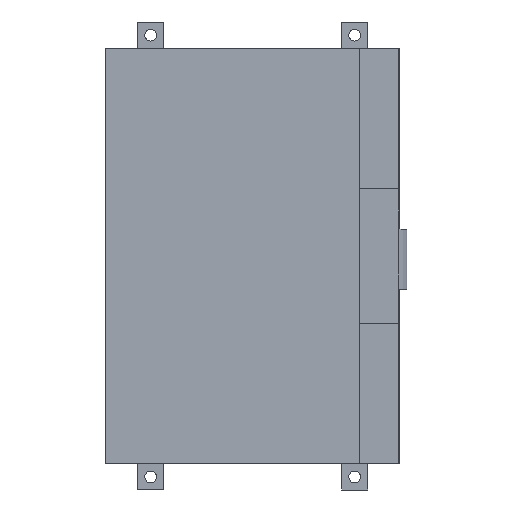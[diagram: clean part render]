
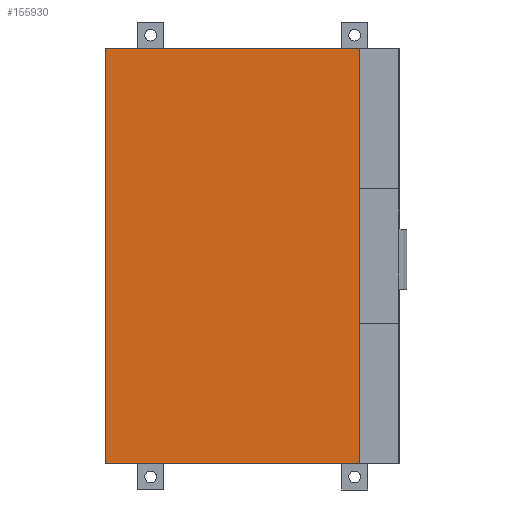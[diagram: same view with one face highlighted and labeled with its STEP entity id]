
A CAD part, left-side view. The second image highlights one B-rep face of the part: STEP entity #155930.
In plain terms, the highlighted planar face has unit normal (-1, 0, 0) as drawn and (0, 1, 0) by its records, which use the part's own axes.
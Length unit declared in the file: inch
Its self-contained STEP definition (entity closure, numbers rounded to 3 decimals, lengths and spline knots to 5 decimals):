
#2210 = ORIENTED_EDGE ( 'NONE', *, *, #3474, .T. ) ;
#3474 = EDGE_CURVE ( 'NONE', #174096, #57783, #72416, .T. ) ;
#8680 = CARTESIAN_POINT ( 'NONE',  ( -2.18504, 0.06299, -1.13386 ) ) ;
#20070 = CARTESIAN_POINT ( 'NONE',  ( 0., 0.06299, 0. ) ) ;
#23572 = VECTOR ( 'NONE', #72243, 39.37008 ) ;
#28630 = LINE ( 'NONE', #168694, #23572 ) ;
#39419 = VECTOR ( 'NONE', #64365, 39.37008 ) ;
#51798 = DIRECTION ( 'NONE',  ( 0., 0., 1. ) ) ;
#57783 = VERTEX_POINT ( 'NONE', #126163 ) ;
#64365 = DIRECTION ( 'NONE',  ( 0., 0., -1. ) ) ;
#72243 = DIRECTION ( 'NONE',  ( -1., 0., 0. ) ) ;
#72416 = LINE ( 'NONE', #169775, #208272 ) ;
#86216 = EDGE_CURVE ( 'NONE', #57783, #103075, #136109, .T. ) ;
#98933 = AXIS2_PLACEMENT_3D ( 'NONE', #20070, #101843, #51798 ) ;
#101843 = DIRECTION ( 'NONE',  ( 0., 1., 0. ) ) ;
#103075 = VERTEX_POINT ( 'NONE', #123382 ) ;
#106237 = FACE_OUTER_BOUND ( 'NONE', #175805, .T. ) ;
#119144 = ORIENTED_EDGE ( 'NONE', *, *, #147534, .T. ) ;
#123382 = CARTESIAN_POINT ( 'NONE',  ( 2.18504, 0.06299, 1.54331 ) ) ;
#126163 = CARTESIAN_POINT ( 'NONE',  ( -2.18504, 0.06299, 1.54331 ) ) ;
#126635 = EDGE_CURVE ( 'NONE', #103075, #137757, #173010, .T. ) ;
#131086 = VECTOR ( 'NONE', #148879, 39.37008 ) ;
#136109 = LINE ( 'NONE', #162359, #131086 ) ;
#137520 = ORIENTED_EDGE ( 'NONE', *, *, #126635, .T. ) ;
#137757 = VERTEX_POINT ( 'NONE', #140022 ) ;
#140022 = CARTESIAN_POINT ( 'NONE',  ( 2.18504, 0.06299, -1.13386 ) ) ;
#147534 = EDGE_CURVE ( 'NONE', #137757, #174096, #28630, .T. ) ;
#148879 = DIRECTION ( 'NONE',  ( 1., 0., 0. ) ) ;
#155930 = ADVANCED_FACE ( 'NONE', ( #106237 ), #198904, .T. ) ;
#162359 = CARTESIAN_POINT ( 'NONE',  ( -2.18504, 0.06299, 1.54331 ) ) ;
#168694 = CARTESIAN_POINT ( 'NONE',  ( -2.18504, 0.06299, -1.13386 ) ) ;
#169775 = CARTESIAN_POINT ( 'NONE',  ( -2.18504, 0.06299, -1.13386 ) ) ;
#172508 = DIRECTION ( 'NONE',  ( 0., 0., 1. ) ) ;
#173010 = LINE ( 'NONE', #179751, #39419 ) ;
#174096 = VERTEX_POINT ( 'NONE', #8680 ) ;
#175805 = EDGE_LOOP ( 'NONE', ( #2210, #192842, #137520, #119144 ) ) ;
#179751 = CARTESIAN_POINT ( 'NONE',  ( 2.18504, 0.06299, -1.13386 ) ) ;
#192842 = ORIENTED_EDGE ( 'NONE', *, *, #86216, .T. ) ;
#198904 = PLANE ( 'NONE',  #98933 ) ;
#208272 = VECTOR ( 'NONE', #172508, 39.37008 ) ;
